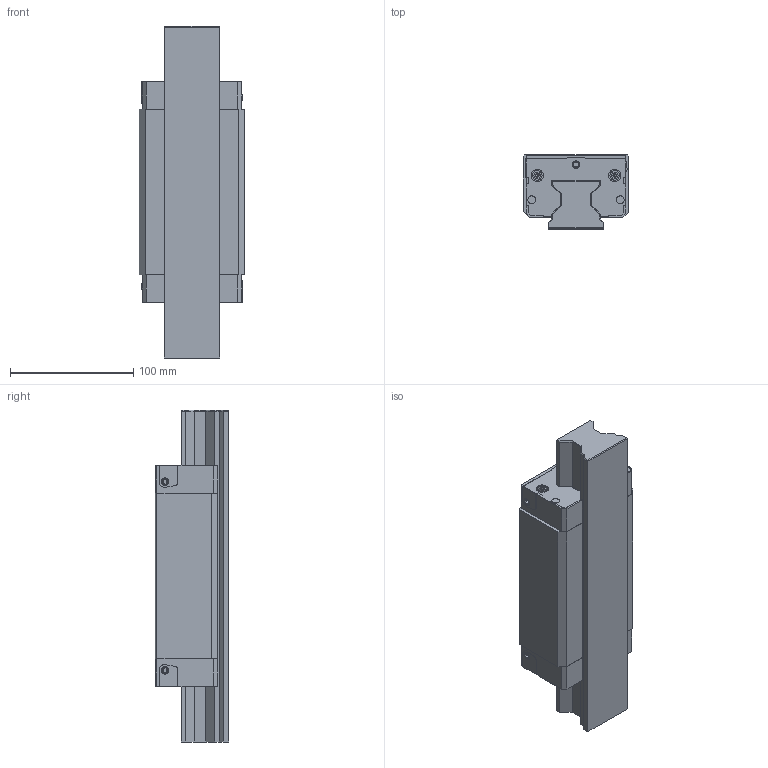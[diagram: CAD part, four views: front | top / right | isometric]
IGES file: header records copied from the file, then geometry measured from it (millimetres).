
Start section: 3D InterOp IGES (v. 2019 1.0.2), Spatial Corp. Copyright (c) 1999-2017.
Global section: file name: R1823_size45.igs; native system: Spatial Corp.; preprocessor: 3D InterOp GENERIC/IGES 3.0; author: Noname; organization: Noname; date: 20220630.112903; units: millimetre
Bounding box: 86 x 60 x 269.5 mm (x, y, z)
Surface area: 158202.9 mm2 (no closed solid volume)
Topology: 0 solids, 0 shells, 526 faces, 2740 edges, 2712 vertices
Faces by surface type: extrusion 326, revolution 200
